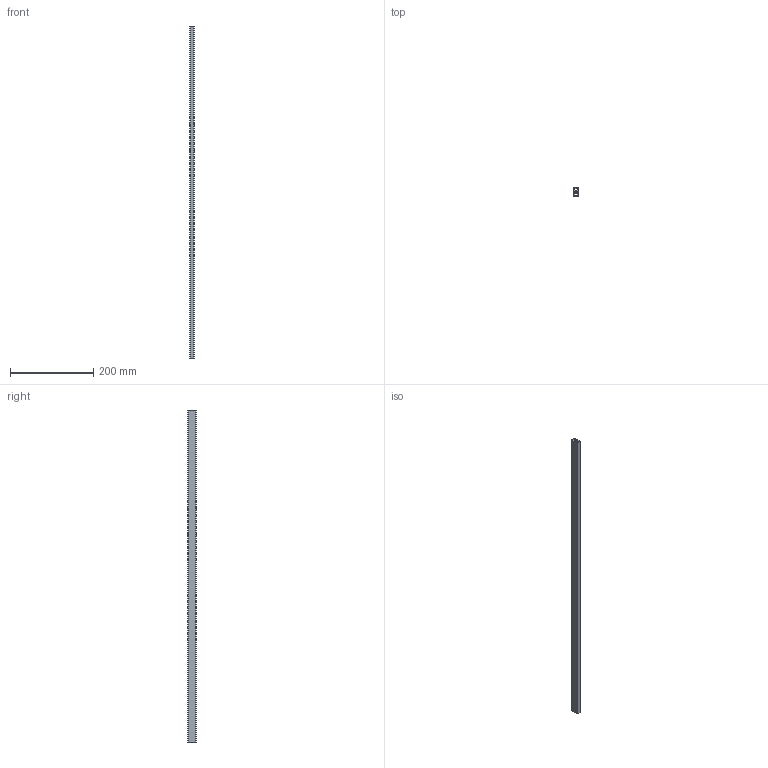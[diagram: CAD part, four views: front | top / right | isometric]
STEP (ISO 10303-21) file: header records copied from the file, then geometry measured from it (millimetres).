
FILE_DESCRIPTION (( 'STEP AP203' ), '1' );
FILE_NAME ('StrongMax pøíèný railing 800 mm 336117 a 336115_3D.STEP', '2020-06-22T11:23:02', ( '' ), ( '' ), 'SwSTEP 2.0', 'SolidWorks 2019', '' );
FILE_SCHEMA (( 'CONFIG_CONTROL_DESIGN' ));
Length unit declared in the file: millimetre
Products named in the file (1): StrongMax pøíèný railing 800 mm 336117 a 336115_3D
Bounding box: 10 x 20 x 800 mm (x, y, z)
Volume: 79431.1 mm3; surface area: 98557.6 mm2
Topology: 1 solids, 1 shells, 56 faces, 162 edges, 108 vertices
Faces by surface type: plane 30, cylinder 26
Entity records: 1939 total; most frequent: DIRECTION 328, CARTESIAN_POINT 327, ORIENTED_EDGE 324, EDGE_CURVE 162, LINE 110, VECTOR 110, AXIS2_PLACEMENT_3D 109, VERTEX_POINT 108
